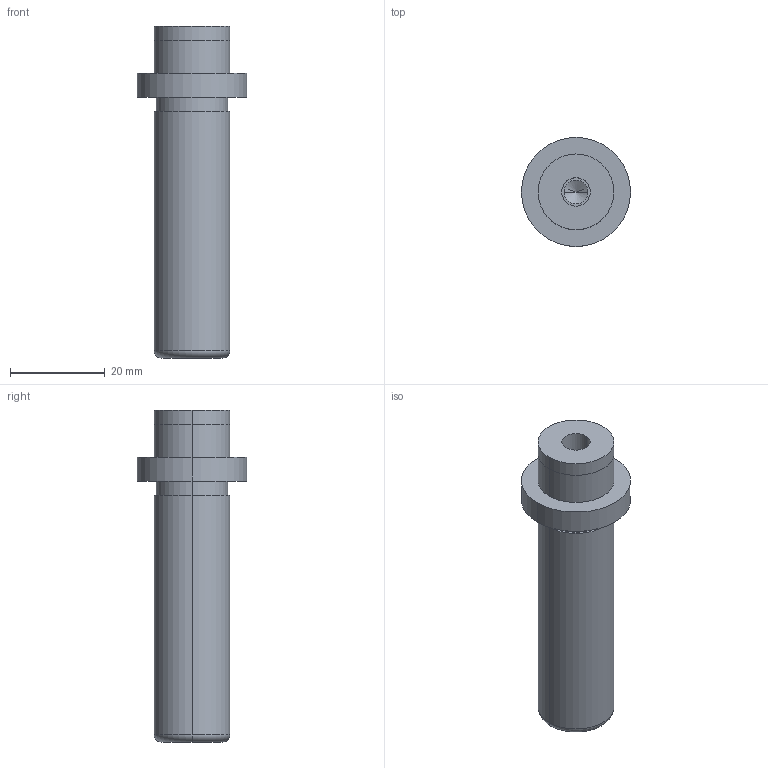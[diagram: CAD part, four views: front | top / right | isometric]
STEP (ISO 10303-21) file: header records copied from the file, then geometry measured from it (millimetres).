
FILE_DESCRIPTION(/* description */ (''),/* implementation_level */ '2;1');
FILE_NAME(/* name */ '3d_sgpw16-60_05277_r00.stp',/* time_stamp */ '2011-01-10T14:11:04+09:00',/* author */ ('MISUMI'),/* organization */ (''),/* preprocessor_version */ 'ST-DEVELOPER v11',/* originating_system */ 'UGS - NX 5.0',/* authorisation */ '');
FILE_SCHEMA (('CONFIG_CONTROL_DESIGN'));
Length unit declared in the file: millimetre
Products named in the file (1): 3d_sgpw16-60_05277_r00
Bounding box: 23 x 23 x 70 mm (x, y, z)
Volume: 14245.8 mm3; surface area: 5005.5 mm2
Topology: 1 solids, 1 shells, 31 faces, 64 edges, 38 vertices
Faces by surface type: cylinder 18, plane 7, cone 4, torus 2
Entity records: 890 total; most frequent: DIRECTION 162, CARTESIAN_POINT 130, ORIENTED_EDGE 120, AXIS2_PLACEMENT_3D 70, EDGE_CURVE 60, EDGE_LOOP 38, CIRCLE 38, VERTEX_POINT 38
